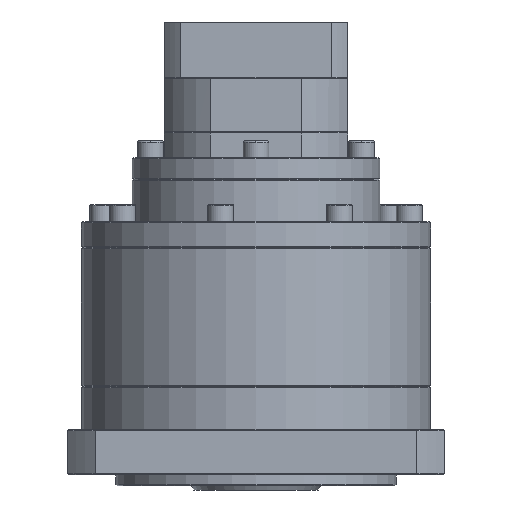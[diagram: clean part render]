
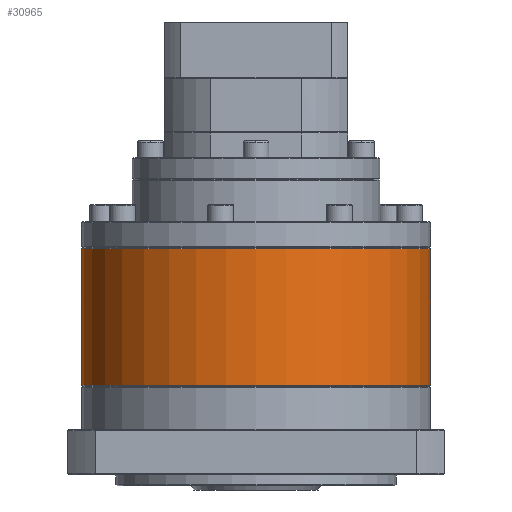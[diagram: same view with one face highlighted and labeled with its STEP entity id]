
A CAD part, front view. The second image highlights one B-rep face of the part: STEP entity #30965.
In plain terms, the highlighted cylindrical face has radius 81 mm (diameter 162 mm), a partial arc.
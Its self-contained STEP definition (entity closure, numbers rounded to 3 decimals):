
#2800 = CARTESIAN_POINT ( 'NONE',  ( -61.678, 43.717, -118.513 ) ) ;
#3254 = ORIENTED_EDGE ( 'NONE', *, *, #17540, .T. ) ;
#4939 = CIRCLE ( 'NONE', #68914, 81. ) ;
#10400 = CARTESIAN_POINT ( 'NONE',  ( -61.678, 43.717, -119.013 ) ) ;
#10662 = VECTOR ( 'NONE', #58566, 1000. ) ;
#12295 = ORIENTED_EDGE ( 'NONE', *, *, #20502, .T. ) ;
#12519 = DIRECTION ( 'NONE',  ( -1., 0., 0. ) ) ;
#17540 = EDGE_CURVE ( 'NONE', #18302, #55789, #35896, .T. ) ;
#18302 = VERTEX_POINT ( 'NONE', #65410 ) ;
#19555 = ORIENTED_EDGE ( 'NONE', *, *, #73864, .F. ) ;
#20502 = EDGE_CURVE ( 'NONE', #55789, #69460, #91057, .T. ) ;
#20558 = LINE ( 'NONE', #88798, #46390 ) ;
#20580 = AXIS2_PLACEMENT_3D ( 'NONE', #10400, #63579, #78365 ) ;
#22351 = ORIENTED_EDGE ( 'NONE', *, *, #26105, .T. ) ;
#23459 = CARTESIAN_POINT ( 'NONE',  ( -61.678, 43.717, -182.513 ) ) ;
#24817 = DIRECTION ( 'NONE',  ( -1., 0., 0. ) ) ;
#26105 = EDGE_CURVE ( 'NONE', #69460, #51852, #20558, .T. ) ;
#28101 = CARTESIAN_POINT ( 'NONE',  ( -142.678, 43.717, -119.013 ) ) ;
#29685 = FACE_OUTER_BOUND ( 'NONE', #61426, .T. ) ;
#30965 = ADVANCED_FACE ( 'NONE', ( #29685 ), #42605, .T. ) ;
#35896 = CIRCLE ( 'NONE', #20580, 81. ) ;
#37019 = CARTESIAN_POINT ( 'NONE',  ( 19.322, 43.717, -182.513 ) ) ;
#42605 = CYLINDRICAL_SURFACE ( 'NONE', #56762, 81. ) ;
#42797 = DIRECTION ( 'NONE',  ( 0., 0., -1. ) ) ;
#44396 = CARTESIAN_POINT ( 'NONE',  ( 19.322, 43.717, -118.513 ) ) ;
#46390 = VECTOR ( 'NONE', #42797, 1000. ) ;
#51852 = VERTEX_POINT ( 'NONE', #84738 ) ;
#53362 = CARTESIAN_POINT ( 'NONE',  ( -61.678, 43.717, -119.013 ) ) ;
#55789 = VERTEX_POINT ( 'NONE', #75799 ) ;
#56762 = AXIS2_PLACEMENT_3D ( 'NONE', #2800, #63576, #24817 ) ;
#58566 = DIRECTION ( 'NONE',  ( 0., 0., -1. ) ) ;
#61426 = EDGE_LOOP ( 'NONE', ( #19555, #3254, #12295, #22351, #92491 ) ) ;
#61852 = DIRECTION ( 'NONE',  ( 0., 0., -1. ) ) ;
#63576 = DIRECTION ( 'NONE',  ( 0., 0., -1. ) ) ;
#63579 = DIRECTION ( 'NONE',  ( 0., 0., -1. ) ) ;
#65410 = CARTESIAN_POINT ( 'NONE',  ( 19.322, 43.717, -119.013 ) ) ;
#68469 = DIRECTION ( 'NONE',  ( -1., 0., 0. ) ) ;
#68914 = AXIS2_PLACEMENT_3D ( 'NONE', #23459, #84040, #12519 ) ;
#69460 = VERTEX_POINT ( 'NONE', #28101 ) ;
#73864 = EDGE_CURVE ( 'NONE', #18302, #85852, #76418, .T. ) ;
#75799 = CARTESIAN_POINT ( 'NONE',  ( -61.678, -37.283, -119.013 ) ) ;
#76418 = LINE ( 'NONE', #44396, #10662 ) ;
#78365 = DIRECTION ( 'NONE',  ( -1., 0., 0. ) ) ;
#82614 = AXIS2_PLACEMENT_3D ( 'NONE', #53362, #61852, #68469 ) ;
#84040 = DIRECTION ( 'NONE',  ( 0., 0., 1. ) ) ;
#84738 = CARTESIAN_POINT ( 'NONE',  ( -142.678, 43.717, -182.513 ) ) ;
#85126 = EDGE_CURVE ( 'NONE', #51852, #85852, #4939, .T. ) ;
#85852 = VERTEX_POINT ( 'NONE', #37019 ) ;
#88798 = CARTESIAN_POINT ( 'NONE',  ( -142.678, 43.717, -118.513 ) ) ;
#91057 = CIRCLE ( 'NONE', #82614, 81. ) ;
#92491 = ORIENTED_EDGE ( 'NONE', *, *, #85126, .T. ) ;
